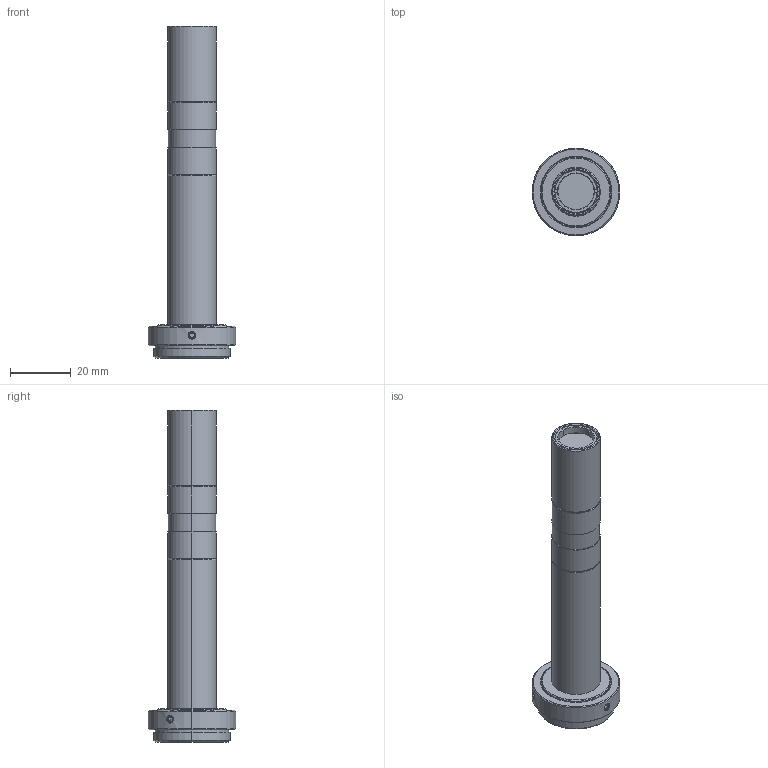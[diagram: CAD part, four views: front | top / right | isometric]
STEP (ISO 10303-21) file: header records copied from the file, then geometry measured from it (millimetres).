
FILE_DESCRIPTION (( 'STEP AP203' ), '1' );
FILE_NAME ('MML6-ST110_A03704A0100101A-001.STEP', '2013-12-11T02:35:33', ( 'SCHOTT' ), ( 'SCHOTT' ), 'SwSTEP 2.0', 'SolidWorks 2011', '' );
FILE_SCHEMA (( 'CONFIG_CONTROL_DESIGN' ));
Length unit declared in the file: millimetre
Products named in the file (1): MML6-ST110_A03704A0100101A-001
Bounding box: 29 x 29 x 109.68 mm (x, y, z)
Volume: 19897.5 mm3; surface area: 9816.1 mm2
Topology: 1 solids, 1 shells, 154 faces, 356 edges, 223 vertices
Faces by surface type: cone 67, plane 47, cylinder 38, torus 2
Entity records: 4628 total; most frequent: CARTESIAN_POINT 989, DIRECTION 781, ORIENTED_EDGE 712, EDGE_CURVE 356, AXIS2_PLACEMENT_3D 305, VERTEX_POINT 223, EDGE_LOOP 173, VECTOR 171
